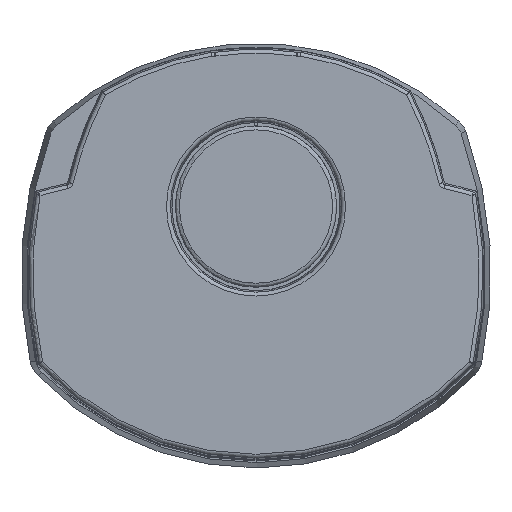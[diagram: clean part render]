
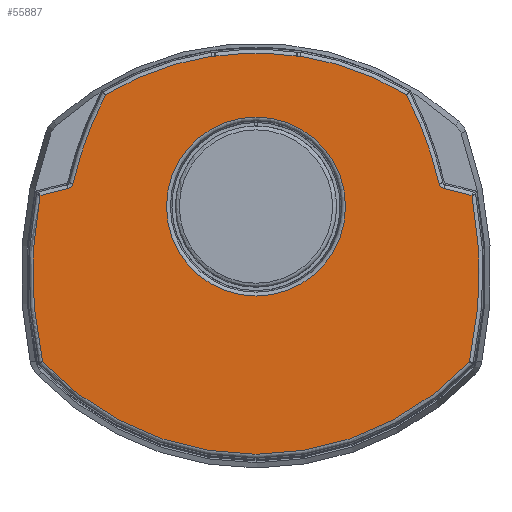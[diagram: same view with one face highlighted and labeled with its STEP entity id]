
A CAD part, top view. The second image highlights one B-rep face of the part: STEP entity #55887.
In plain terms, the highlighted planar face has unit normal (0, 0, 1).
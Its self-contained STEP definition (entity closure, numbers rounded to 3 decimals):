
#55725=CARTESIAN_POINT('',(0.,-93.181,12.));
#55726=DIRECTION('',(0.0,0.0,1.0));
#55727=DIRECTION('',(1.0,0.0,0.0));
#55728=AXIS2_PLACEMENT_3D('',#55725,#55726,#55727);
#55729=PLANE('',#55728);
#55730=CARTESIAN_POINT('',(-185.087,-21.753,12.));
#55731=VERTEX_POINT('',#55730);
#55732=CARTESIAN_POINT('',(-152.048,68.01,12.));
#55733=VERTEX_POINT('',#55732);
#55734=CARTESIAN_POINT('',(188.489,-108.295,12.));
#55735=DIRECTION('',(0.0,0.0,-1.0));
#55736=DIRECTION('',(-0.939,0.345,0.0));
#55737=AXIS2_PLACEMENT_3D('',#55734,#55735,#55736);
#55738=CIRCLE('',#55737,383.47);
#55739=EDGE_CURVE('',#55731,#55733,#55738,.T.);
#55740=ORIENTED_EDGE('',*,*,#55739,.F.);
#55741=CARTESIAN_POINT('',(-190.247,-26.913,12.));
#55742=VERTEX_POINT('',#55741);
#55743=CARTESIAN_POINT('',(-190.247,-26.913,12.));
#55744=CARTESIAN_POINT('',(-189.183,-26.666,12.));
#55745=CARTESIAN_POINT('',(-186.816,-25.487,12.));
#55746=CARTESIAN_POINT('',(-185.416,-23.172,12.));
#55747=CARTESIAN_POINT('',(-185.087,-21.753,12.));
#55748=B_SPLINE_CURVE_WITH_KNOTS('',3,(#55743,#55744,#55745,#55746,#55747),.UNSPECIFIED.,.F.,.U.,(4,1,4),(0.,0.328,0.765),.UNSPECIFIED.);
#55749=EDGE_CURVE('',#55742,#55731,#55748,.T.);
#55750=ORIENTED_EDGE('',*,*,#55749,.F.);
#55751=CARTESIAN_POINT('',(-218.375,-33.942,12.));
#55752=VERTEX_POINT('',#55751);
#55753=CARTESIAN_POINT('',(0.154,-848.611,12.));
#55754=DIRECTION('',(0.0,0.0,-1.0));
#55755=DIRECTION('',(-0.242,0.97,0.0));
#55756=AXIS2_PLACEMENT_3D('',#55753,#55754,#55755);
#55757=CIRCLE('',#55756,843.47);
#55758=EDGE_CURVE('',#55752,#55742,#55757,.T.);
#55759=ORIENTED_EDGE('',*,*,#55758,.F.);
#55760=CARTESIAN_POINT('',(-215.781,-201.843,12.));
#55761=VERTEX_POINT('',#55760);
#55762=CARTESIAN_POINT('',(187.729,-111.641,12.));
#55763=DIRECTION('',(0.0,0.0,-1.0));
#55764=DIRECTION('',(-1.,-0.015,0.0));
#55765=AXIS2_PLACEMENT_3D('',#55762,#55763,#55764);
#55766=CIRCLE('',#55765,413.47);
#55767=EDGE_CURVE('',#55761,#55752,#55766,.T.);
#55768=ORIENTED_EDGE('',*,*,#55767,.F.);
#55769=CARTESIAN_POINT('',(215.781,-201.843,12.));
#55770=VERTEX_POINT('',#55769);
#55771=CARTESIAN_POINT('',(0.0,0.0,12.));
#55772=DIRECTION('',(0.0,0.0,-1.0));
#55773=DIRECTION('',(0.0,-1.0,0.0));
#55774=AXIS2_PLACEMENT_3D('',#55771,#55772,#55773);
#55775=CIRCLE('',#55774,295.47);
#55776=EDGE_CURVE('',#55770,#55761,#55775,.T.);
#55777=ORIENTED_EDGE('',*,*,#55776,.F.);
#55778=CARTESIAN_POINT('',(218.375,-33.942,12.));
#55779=VERTEX_POINT('',#55778);
#55780=CARTESIAN_POINT('',(-187.729,-111.641,12.));
#55781=DIRECTION('',(0.0,0.0,-1.0));
#55782=DIRECTION('',(1.,-0.015,0.0));
#55783=AXIS2_PLACEMENT_3D('',#55780,#55781,#55782);
#55784=CIRCLE('',#55783,413.47);
#55785=EDGE_CURVE('',#55779,#55770,#55784,.T.);
#55786=ORIENTED_EDGE('',*,*,#55785,.F.);
#55787=CARTESIAN_POINT('',(190.247,-26.913,12.));
#55788=VERTEX_POINT('',#55787);
#55789=CARTESIAN_POINT('',(-0.154,-848.611,12.));
#55790=DIRECTION('',(0.0,0.0,-1.));
#55791=DIRECTION('',(0.242,0.97,0.0));
#55792=AXIS2_PLACEMENT_3D('',#55789,#55790,#55791);
#55793=CIRCLE('',#55792,843.47);
#55794=EDGE_CURVE('',#55788,#55779,#55793,.T.);
#55795=ORIENTED_EDGE('',*,*,#55794,.F.);
#55796=CARTESIAN_POINT('',(185.087,-21.753,12.));
#55797=VERTEX_POINT('',#55796);
#55798=CARTESIAN_POINT('',(185.087,-21.753,12.));
#55799=CARTESIAN_POINT('',(185.334,-22.817,12.));
#55800=CARTESIAN_POINT('',(186.513,-25.184,12.));
#55801=CARTESIAN_POINT('',(188.828,-26.584,12.));
#55802=CARTESIAN_POINT('',(190.247,-26.913,12.));
#55803=B_SPLINE_CURVE_WITH_KNOTS('',3,(#55798,#55799,#55800,#55801,#55802),.UNSPECIFIED.,.F.,.U.,(4,1,4),(0.0,0.328,0.765),.UNSPECIFIED.);
#55804=EDGE_CURVE('',#55797,#55788,#55803,.T.);
#55805=ORIENTED_EDGE('',*,*,#55804,.F.);
#55806=CARTESIAN_POINT('',(152.048,68.01,12.));
#55807=VERTEX_POINT('',#55806);
#55808=CARTESIAN_POINT('',(-188.489,-108.295,12.));
#55809=DIRECTION('',(0.0,0.0,-1.));
#55810=DIRECTION('',(0.939,0.345,0.0));
#55811=AXIS2_PLACEMENT_3D('',#55808,#55809,#55810);
#55812=CIRCLE('',#55811,383.47);
#55813=EDGE_CURVE('',#55807,#55797,#55812,.T.);
#55814=ORIENTED_EDGE('',*,*,#55813,.F.);
#55815=CARTESIAN_POINT('',(44.698,107.046,12.));
#55816=VERTEX_POINT('',#55815);
#55817=CARTESIAN_POINT('',(0.0,-183.,12.));
#55818=DIRECTION('',(0.0,0.0,-1.));
#55819=DIRECTION('',(0.342,0.94,0.0));
#55820=AXIS2_PLACEMENT_3D('',#55817,#55818,#55819);
#55821=CIRCLE('',#55820,293.47);
#55822=EDGE_CURVE('',#55816,#55807,#55821,.T.);
#55823=ORIENTED_EDGE('',*,*,#55822,.F.);
#55824=CARTESIAN_POINT('',(41.633,107.046,12.));
#55825=VERTEX_POINT('',#55824);
#55826=CARTESIAN_POINT('',(41.633,107.046,12.));
#55827=DIRECTION('',(1.0,0.0,0.0));
#55828=VECTOR('',#55827,3.065);
#55829=LINE('',#55826,#55828);
#55830=EDGE_CURVE('',#55825,#55816,#55829,.T.);
#55831=ORIENTED_EDGE('',*,*,#55830,.F.);
#55832=CARTESIAN_POINT('',(40.543,107.122,12.));
#55833=VERTEX_POINT('',#55832);
#55834=CARTESIAN_POINT('',(40.543,107.122,12.));
#55835=CARTESIAN_POINT('',(40.904,107.071,12.));
#55836=CARTESIAN_POINT('',(41.268,107.046,12.));
#55837=CARTESIAN_POINT('',(41.633,107.046,12.));
#55838=B_SPLINE_CURVE_WITH_KNOTS('',3,(#55834,#55835,#55836,#55837),.UNSPECIFIED.,.F.,.U.,(4,4),(0.,0.109),.UNSPECIFIED.);
#55839=EDGE_CURVE('',#55833,#55825,#55838,.T.);
#55840=ORIENTED_EDGE('',*,*,#55839,.F.);
#55841=CARTESIAN_POINT('',(-40.543,107.122,12.));
#55842=VERTEX_POINT('',#55841);
#55843=CARTESIAN_POINT('',(0.0,-183.,12.));
#55844=DIRECTION('',(0.0,0.0,-1.0));
#55845=DIRECTION('',(0.0,1.0,0.0));
#55846=AXIS2_PLACEMENT_3D('',#55843,#55844,#55845);
#55847=CIRCLE('',#55846,292.941);
#55848=EDGE_CURVE('',#55842,#55833,#55847,.T.);
#55849=ORIENTED_EDGE('',*,*,#55848,.F.);
#55850=CARTESIAN_POINT('',(-41.633,107.046,12.));
#55851=VERTEX_POINT('',#55850);
#55852=CARTESIAN_POINT('',(-41.633,107.046,12.));
#55853=CARTESIAN_POINT('',(-41.268,107.046,12.));
#55854=CARTESIAN_POINT('',(-40.904,107.071,12.));
#55855=CARTESIAN_POINT('',(-40.543,107.122,12.));
#55856=B_SPLINE_CURVE_WITH_KNOTS('',3,(#55852,#55853,#55854,#55855),.UNSPECIFIED.,.F.,.U.,(4,4),(0.0,0.109),.UNSPECIFIED.);
#55857=EDGE_CURVE('',#55851,#55842,#55856,.T.);
#55858=ORIENTED_EDGE('',*,*,#55857,.F.);
#55859=CARTESIAN_POINT('',(-44.698,107.046,12.));
#55860=VERTEX_POINT('',#55859);
#55861=CARTESIAN_POINT('',(-44.698,107.046,12.));
#55862=DIRECTION('',(1.0,0.0,0.0));
#55863=VECTOR('',#55862,3.065);
#55864=LINE('',#55861,#55863);
#55865=EDGE_CURVE('',#55860,#55851,#55864,.T.);
#55866=ORIENTED_EDGE('',*,*,#55865,.F.);
#55867=CARTESIAN_POINT('',(0.0,-183.,12.));
#55868=DIRECTION('',(0.0,0.0,-1.));
#55869=DIRECTION('',(-0.342,0.94,0.0));
#55870=AXIS2_PLACEMENT_3D('',#55867,#55868,#55869);
#55871=CIRCLE('',#55870,293.47);
#55872=EDGE_CURVE('',#55733,#55860,#55871,.T.);
#55873=ORIENTED_EDGE('',*,*,#55872,.F.);
#55874=EDGE_LOOP('',(#55740,#55750,#55759,#55768,#55777,#55786,#55795,#55805,#55814,#55823,#55831,#55840,#55849,#55858,#55866,#55873));
#55875=FACE_OUTER_BOUND('',#55874,.T.);
#55876=CARTESIAN_POINT('',(90.472,-45.0,12.));
#55877=VERTEX_POINT('',#55876);
#55878=CARTESIAN_POINT('',(0.0,-45.,12.));
#55879=DIRECTION('',(0.0,0.0,1.0));
#55880=DIRECTION('',(-1.0,0.0,0.0));
#55881=AXIS2_PLACEMENT_3D('',#55878,#55879,#55880);
#55882=CIRCLE('',#55881,90.472);
#55883=EDGE_CURVE('',#55877,#55877,#55882,.T.);
#55884=ORIENTED_EDGE('',*,*,#55883,.F.);
#55885=EDGE_LOOP('',(#55884));
#55886=FACE_BOUND('',#55885,.T.);
#55887=ADVANCED_FACE('',(#55875,#55886),#55729,.T.);
